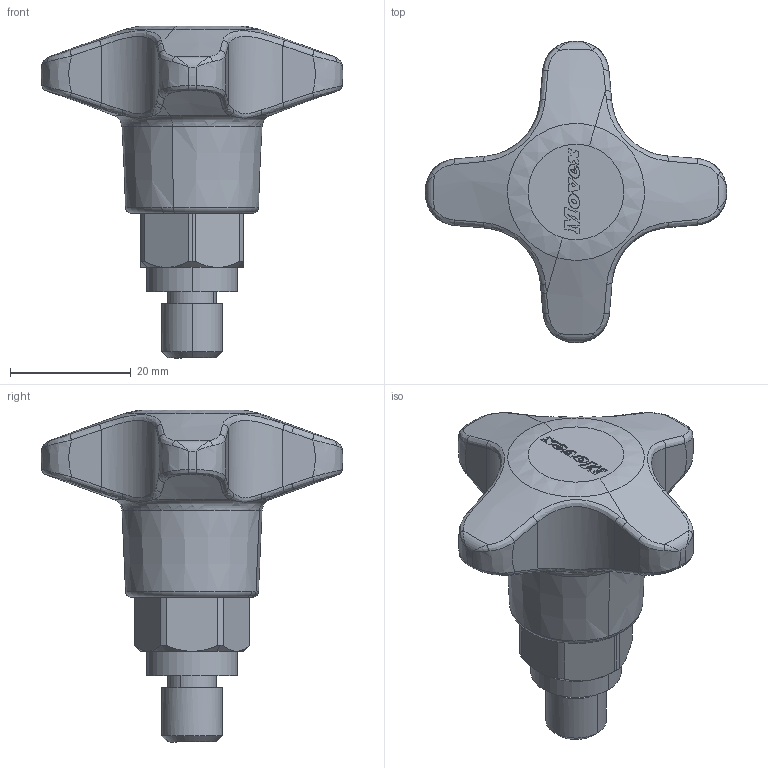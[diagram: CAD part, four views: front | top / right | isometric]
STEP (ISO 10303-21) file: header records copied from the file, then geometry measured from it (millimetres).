
FILE_DESCRIPTION(('CATIA V5 STEP Exchange'),'2;1');
FILE_NAME('X:\CODICI MOVEX\3D per clienti\3D definitivi\Part 300\P31901_01.stp','2016-06-17T12:28:02+00:00',('none'),('none'),'Version 5-6 Release 2012','CATIA V5 STEP AP203','none');
FILE_SCHEMA(('CONFIG_CONTROL_DESIGN'));
Length unit declared in the file: millimetre
Products named in the file (1): P31901_01
Assembly tree (2 placements, depth 2):
  P31901_01
    #58
    #21154
Bounding box: 49.99 x 49.99 x 55 mm (x, y, z)
Volume: 22234.8 mm3; surface area: 8387.9 mm2
Topology: 2 solids, 2 shells, 603 faces, 1676 edges, 1083 vertices
Faces by surface type: plane 462, bspline 68, cylinder 26, cone 25, torus 16, revolution 6
Entity records: 22407 total; most frequent: CARTESIAN_POINT 7788, ORIENTED_EDGE 3336, DIRECTION 2435, EDGE_CURVE 1668, VECTOR 1347, LINE 1347, VERTEX_POINT 1083, EDGE_LOOP 617
